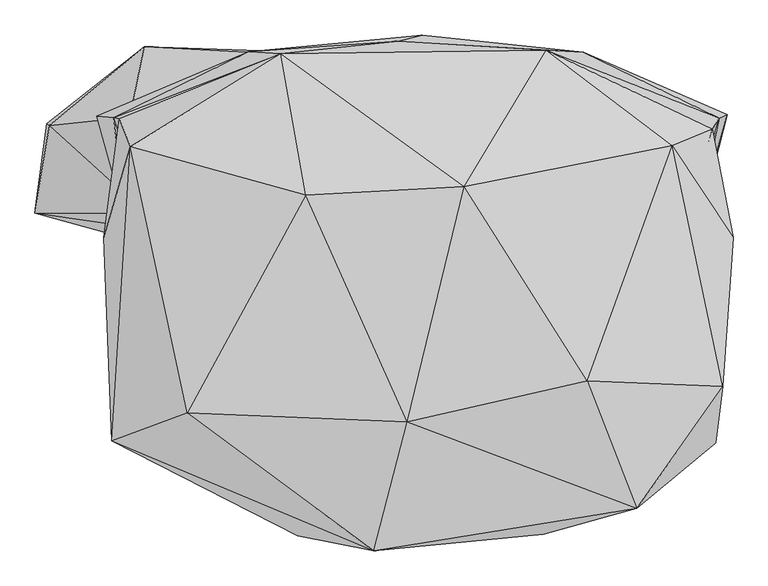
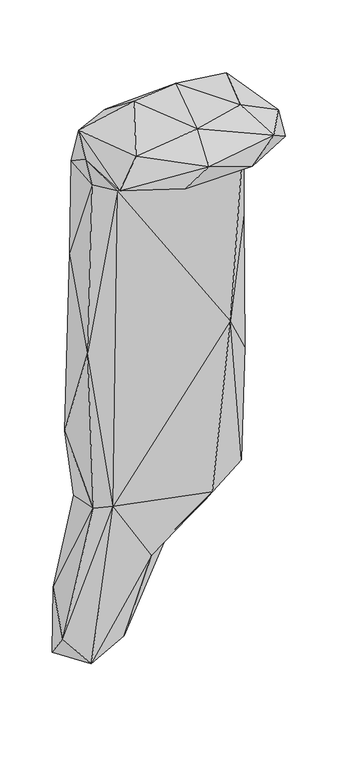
"""IFC4 building model written with IfcOpenShell, lengths in millimetres: geographic element geometry, Enscape AssetDefinition - Bower Vine 06 : Enscape AssetDefinition - Bower Vine 06."""

import ifcopenshell
import ifcopenshell.guid

model = None  # the IFC model being written
_history = None  # IfcOwnerHistory: only IFC2X3 demands one
_inside = {}  # id of a spatial element -> (the spatial element, [elements in it])
_under = {}  # id of a project, library or spatial element -> (it, [spatial elements below it])
_declared = {}  # id of a project -> (the project, [libraries it declares])
_typed = {}  # id of a type object -> (the type object, [elements of that type])
_made_of = {}  # id of a material, layer set ... -> (it, [elements and type objects made of it])


def new_model(schema):
    """Start an empty IFC model of exactly this schema.

    Asked for "IFC4X3", IfcOpenShell would pick the latest addendum, in which some entities
    have other attributes; the version numbers below select the first issue.
    IFC2X3 requires an IfcOwnerHistory on every rooted entity: one is made here for all.
    """
    global model, _history
    if schema == "IFC4X3":
        model = ifcopenshell.file(schema_version=(4, 3, 0, 0))
    else:
        model = ifcopenshell.file(schema=schema)
    _inside.clear()
    _under.clear()
    _declared.clear()
    _typed.clear()
    _made_of.clear()
    _history = None
    if model.schema == "IFC2X3":
        org = make("IfcOrganization", Name="unknown")
        user = make(
            "IfcPersonAndOrganization",
            ThePerson=make("IfcPerson", FamilyName="unknown"),
            TheOrganization=org,
        )
        app = make(
            "IfcApplication",
            ApplicationDeveloper=org,
            Version="unknown",
            ApplicationFullName="unknown",
            ApplicationIdentifier="unknown",
        )
        _history = make(
            "IfcOwnerHistory",
            OwningUser=user,
            OwningApplication=app,
            ChangeAction="ADDED",
            CreationDate=0,
        )
    return model


def make(cls, **values):
    """One entity of the class cls with the attributes given. An attribute that is None is left unset."""
    return model.create_entity(
        cls, **{name: value for name, value in values.items() if value is not None}
    )


def rooted(cls, **values):
    """An entity with a GlobalId (a new one), such as an element, a storey or a relation."""
    return make(cls, GlobalId=ifcopenshell.guid.new(), OwnerHistory=_history, **values)


def si_unit(unit_type, name, prefix=None):
    """IfcSIUnit, for example si_unit("LENGTHUNIT", "METRE", prefix="MILLI")."""
    return make("IfcSIUnit", UnitType=unit_type, Prefix=prefix, Name=name)


def assignment(units):
    """IfcUnitAssignment: the units of a project."""
    return None if units is None else make("IfcUnitAssignment", Units=units)


def point(xyz):
    """IfcCartesianPoint."""
    return None if xyz is None else make("IfcCartesianPoint", Coordinates=xyz)


def direction(xyz):
    """IfcDirection."""
    return None if xyz is None else make("IfcDirection", DirectionRatios=xyz)


def frame(location, z_axis=None, x_axis=None):
    """IfcAxis2Placement3D, a coordinate frame: its origin and axes. An axis left out is left unset."""
    return make(
        "IfcAxis2Placement3D",
        Location=point(location),
        Axis=direction(z_axis),
        RefDirection=direction(x_axis),
    )


def origin():
    """The frame at (0, 0, 0) with its axes left unset."""
    return frame((0.0, 0.0, 0.0))


def place(relative_to, where):
    """IfcLocalPlacement: puts the frame where relative to a parent placement (None: the world)."""
    return make(
        "IfcLocalPlacement", PlacementRelTo=relative_to, RelativePlacement=where
    )


def context(
    kind, dimensions, precision=None, world=None, true_north=None, identifier=None
):
    """IfcGeometricRepresentationContext, for example the 3D "Model" context."""
    return make(
        "IfcGeometricRepresentationContext",
        ContextIdentifier=identifier,
        ContextType=kind,
        CoordinateSpaceDimension=dimensions,
        Precision=precision,
        WorldCoordinateSystem=world,
        TrueNorth=true_north,
    )


def project(units=None, contexts=None):
    """IfcProject with its units and contexts."""
    return rooted(
        "IfcProject",
        Name="project",
        RepresentationContexts=contexts,
        UnitsInContext=assignment(units),
    )


def spatial(cls, under=None, at=None, **own):
    """A site, building, storey or space (cls), placed at a placement, below another one or the project."""
    s = rooted(cls, ObjectPlacement=at, **own)
    if under is not None:
        _under.setdefault(under.id(), (under, []))[1].append(s)
    return s


def faces_of(points, faces, orient=None, outer=None):
    """IfcFace entities. A face is a list of loops; a loop is a list of indices into points, from 0.

    orient and outer hold one flag for each loop. By default every Orientation is true, the
    first loop of a face is its IfcFaceOuterBound and the others are IfcFaceBound.
    """
    made = []
    for i, loops in enumerate(faces):
        bounds = []
        for j, loop in enumerate(loops):
            is_outer = j == 0 if outer is None else outer[i][j]
            bounds.append(
                make(
                    "IfcFaceOuterBound" if is_outer else "IfcFaceBound",
                    Bound=make("IfcPolyLoop", Polygon=[points[k] for k in loop]),
                    Orientation=True if orient is None else orient[i][j],
                )
            )
        made.append(make("IfcFace", Bounds=bounds))
    return made


def faceted_brep(points, faces, orient=None, outer=None, voids=None):
    """IfcFacetedBrep: a solid bounded by flat faces; with voids (closed shells), ...WithVoids."""
    shared = [point(p) for p in points]
    hull = make("IfcClosedShell", CfsFaces=faces_of(shared, faces, orient, outer))
    if voids is None:
        return make("IfcFacetedBrep", Outer=hull)
    return make(
        "IfcFacetedBrepWithVoids",
        Outer=hull,
        Voids=[
            make(cls, CfsFaces=faces_of(shared, fs, o, b)) for cls, fs, o, b in voids
        ],
    )


def shape(context_of_items, identifier, shape_type, items):
    """IfcShapeRepresentation: the items that make up one representation, for example the "Body"."""
    return make(
        "IfcShapeRepresentation",
        ContextOfItems=context_of_items,
        RepresentationIdentifier=identifier,
        RepresentationType=shape_type,
        Items=items,
    )


def source(mapping_origin, context_of_items, identifier, shape_type, items):
    """IfcRepresentationMap: a shape defined once, which mapped items show again and again."""
    return make(
        "IfcRepresentationMap",
        MappingOrigin=mapping_origin,
        MappedRepresentation=shape(context_of_items, identifier, shape_type, items),
    )


def transform(
    local_origin,
    x_axis=None,
    y_axis=None,
    z_axis=None,
    scale=None,
    scale2=None,
    scale3=None,
    uniform=True,
):
    """IfcCartesianTransformationOperator3D, or its non-uniform kind. x_axis, y_axis, z_axis: its Axis1, 2, 3."""
    if uniform:
        return make(
            "IfcCartesianTransformationOperator3D",
            Axis1=direction(x_axis),
            Axis2=direction(y_axis),
            LocalOrigin=point(local_origin),
            Scale=scale,
            Axis3=direction(z_axis),
        )
    return make(
        "IfcCartesianTransformationOperator3DnonUniform",
        Axis1=direction(x_axis),
        Axis2=direction(y_axis),
        LocalOrigin=point(local_origin),
        Scale=scale,
        Axis3=direction(z_axis),
        Scale2=scale2,
        Scale3=scale3,
    )


def mapped(mapping_source, mapping_target):
    """IfcMappedItem: shows the shape of a source again, moved by a transform."""
    return make(
        "IfcMappedItem", MappingSource=mapping_source, MappingTarget=mapping_target
    )


def made_of(thing, what):
    """Note that an element or type object is made of a material, layer set ...; save() writes the relation."""
    if what is not None:
        _made_of.setdefault(what.id(), (what, []))[1].append(thing)
    return thing


def element(
    cls,
    number,
    at=None,
    inside=None,
    cuts=None,
    type_object=None,
    material=None,
    context=None,
    identifier="Body",
    shape_type=None,
    held_by="IfcProductDefinitionShape",
    body=None,
    shapes=None,
    **own,
):
    """One element of the class cls, such as IfcWall. Its Tag is "e" and its number.

    at: its placement. inside: the storey or other place that contains it. cuts: it is an
    opening in that element (IfcRelVoidsElement). A single representation is given by context,
    identifier, shape_type and body (its items); several are given by shapes. held_by: the class
    of the entity that holds the representations. save() writes the other relations.
    """
    e = rooted(cls, Tag="e%d" % number, ObjectPlacement=at, **own)
    if body is not None:
        shapes = [shape(context, identifier, shape_type, body)]
    if shapes is not None:
        e.Representation = make(held_by, Representations=shapes)
    if inside is not None:
        _inside.setdefault(inside.id(), (inside, []))[1].append(e)
    if cuts is not None:
        rooted(
            "IfcRelVoidsElement", RelatingBuildingElement=cuts, RelatedOpeningElement=e
        )
    if type_object is not None:
        _typed.setdefault(type_object.id(), (type_object, []))[1].append(e)
    return made_of(e, material)


def aggregate(whole, parts):
    """IfcRelAggregates: a whole, such as a stair, and the parts it consists of."""
    return rooted("IfcRelAggregates", RelatingObject=whole, RelatedObjects=parts)


def save(model, path):
    """Write the relations noted so far, then the file.

    IfcRelAggregates (storeys below a building ...), IfcRelContainedInSpatialStructure (elements
    in a storey), IfcRelDefinesByType, IfcRelAssociatesMaterial and IfcRelDeclares: one each for
    every whole, place, type object, material and project.
    """
    for whole, parts in _under.values():
        aggregate(whole, parts)
    for where, things in _inside.values():
        rooted(
            "IfcRelContainedInSpatialStructure",
            RelatedElements=things,
            RelatingStructure=where,
        )
    for kind, things in _typed.values():
        rooted("IfcRelDefinesByType", RelatedObjects=things, RelatingType=kind)
    for what, things in _made_of.values():
        rooted("IfcRelAssociatesMaterial", RelatedObjects=things, RelatingMaterial=what)
    for by, libraries in _declared.values():
        rooted("IfcRelDeclares", RelatingContext=by, RelatedDefinitions=libraries)
    model.write(path)


def geographic_element_d181bed6(model_context):
    return source(origin(), model_context, "Body", "Brep", [
        faceted_brep([(-505.6430101, 0.59, 1.274), (514.2980218, 0.59, -182.6730072), (602.5720239, 0.59, 1.274), (267.888993, -522.9920149, 1.274), (571.9670057, -361.1040115, 1.274), (584.7939849, -262.0770037, 116.7500019), (495.6550002, 162.4139994, 141.5629983), (565.9369826, 191.0630018, 22.2379994), (432.7700138, -476.76301, 124.8430014), (-164.0489995, -525.3049731, 1.274), (-29.871, -551.2409806, 118.0810034), (29.3000005, -324.3489861, 218.1230038), (345.5759883, -252.4499893, 228.6970019), (128.9079934, 90.1470035, 243.9280003), (273.4430134, 330.7279944, 28.8880002), (577.8220296, 211.0199928, -449.4250119), (-193.9660013, 323.9090145, 37.8349982), (338.8009965, 327.5080025, -1413.7649536), (13.3520002, 346.6140032, -535.5370045), (-150.1780003, 74.9799982, 226.6090065), (-458.6029947, 160.7760042, 84.8359987), (-358.2859933, -309.0730011, 159.5309973), (-491.0700023, -357.8479886, 1.274), (-477.9469967, 210.1999968, -146.1230069), (-298.1849909, 0.59, -284.7270072), (-435.2410138, 49.6679991, -226.5679985), (-487.9310131, 211.4769965, -768.8080072), (-469.6660042, 40.0880016, -1350.2550125), (429.3949902, 0.59, -1423.9569902), (-327.9620111, 0.59, -2423.8801003), (543.851018, 48.0929986, -771.9029784), (312.7340078, 0.59, -2549.3159294), (547.7039814, 43.2629995, -1667.5450802), (533.2480073, 57.2960004, -2440.9899712), (592.3900008, 217.5049931, -1589.5600319), (554.0980101, 204.4209987, -2466.5629864), (327.7649879, 313.3220077, -2589.3130302), (384.6209943, 207.9659998, -2755.3911209), (55.6369983, 357.4309945, -1664.1579866), (-219.8999971, 325.6280124, -2503.013134), (-178.1920046, 328.2999992, -2718.9199924), (40.1519984, 213.7479931, -2835.3891373), (40.1629992, 51.2470007, -2802.4470806), (-434.1439903, 336.9460106, -3005.8319569), (-261.4359856, 312.846005, -3198.7230778), (-232.5710058, 204.2929977, -3378.4909248), (-256.3759983, 0.59, -3327.8200626), (-80.0639987, 0.59, -2840.8410549), (-470.5860019, 0.59, -3443.9511299), (-451.0129988, 220.5149978, -3527.0519257), (-606.0450077, 202.0889968, -3439.6979809), (-626.6980171, 44.4790013, -3248.0111122), (-431.1119914, 44.0169983, -2424.423933), (-601.4130116, 198.1340051, -2997.7500439), (-459.4370127, 213.0569965, -2431.8459034), (-517.7890062, 214.4110054, -1973.1429815), (-250.2110004, 327.9010057, -1375.2590418)], [[[0, 1, 2]], [[3, 2, 4]], [[3, 0, 2]], [[4, 2, 5]], [[2, 6, 5]], [[7, 6, 2]], [[7, 2, 1]], [[8, 4, 5]], [[3, 4, 8]], [[0, 3, 9]], [[10, 3, 8]], [[9, 3, 10]], [[11, 8, 12]], [[5, 12, 8]], [[11, 10, 8]], [[6, 12, 5]], [[13, 12, 6]], [[13, 11, 12]], [[7, 14, 6]], [[13, 6, 14]], [[7, 1, 15]], [[14, 7, 15]], [[14, 16, 13]], [[17, 14, 15]], [[18, 16, 14]], [[18, 14, 17]], [[19, 11, 13]], [[16, 19, 13]], [[19, 20, 21]], [[16, 20, 19]], [[19, 21, 11]], [[22, 10, 21]], [[11, 21, 10]], [[21, 20, 22]], [[20, 0, 22]], [[20, 23, 0]], [[23, 20, 16]], [[9, 22, 0]], [[9, 10, 22]], [[24, 1, 0]], [[24, 0, 25]], [[25, 0, 23]], [[26, 25, 23]], [[26, 23, 16]], [[27, 24, 25]], [[27, 25, 26]], [[24, 28, 1]], [[24, 29, 28]], [[27, 29, 24]], [[28, 30, 1]], [[1, 30, 15]], [[29, 31, 28]], [[32, 30, 28]], [[33, 32, 28]], [[33, 28, 31]], [[32, 34, 30]], [[34, 15, 30]], [[17, 15, 34]], [[35, 17, 34]], [[35, 34, 32]], [[33, 35, 32]], [[35, 33, 31]], [[36, 17, 35]], [[36, 35, 37]], [[37, 35, 31]], [[38, 18, 17]], [[38, 17, 36]], [[36, 39, 38]], [[40, 39, 36]], [[40, 36, 37]], [[41, 40, 37]], [[42, 37, 31]], [[41, 37, 42]], [[40, 43, 39]], [[44, 40, 41]], [[43, 40, 44]], [[44, 41, 45]], [[45, 41, 42]], [[46, 45, 42]], [[42, 31, 47]], [[46, 42, 47]], [[29, 47, 31]], [[29, 48, 47]], [[48, 46, 47]], [[48, 45, 46]], [[45, 48, 49]], [[49, 44, 45]], [[49, 43, 44]], [[43, 49, 50]], [[49, 48, 50]], [[48, 51, 50]], [[48, 29, 51]], [[27, 52, 29]], [[29, 52, 51]], [[50, 51, 53]], [[51, 52, 53]], [[43, 50, 53]], [[43, 53, 54]], [[53, 52, 54]], [[54, 52, 55]], [[55, 52, 27]], [[26, 55, 27]], [[54, 55, 39]], [[39, 55, 56]], [[55, 26, 56]], [[43, 54, 39]], [[39, 56, 38]], [[56, 26, 16]], [[56, 16, 18]], [[56, 18, 38]]]),
    ])


if __name__ == "__main__":
    model = new_model("IFC4")
    model_context = context("Model", 3, world=origin())
    ifc_project = project(units=[si_unit("LENGTHUNIT", "METRE", prefix="MILLI")], contexts=[model_context])
    site = spatial("IfcSite", under=ifc_project)
    building = spatial("IfcBuilding", under=site)
    placement = place(None, origin())
    geographic_element_shape = geographic_element_d181bed6(model_context)
    element("IfcGeographicElement", 1, ObjectType="Enscape AssetDefinition - Bower Vine 06 : Enscape AssetDefinition - Bower Vine 06", at=placement, inside=building, context=model_context, shape_type="MappedRepresentation", body=[
        mapped(geographic_element_shape, transform((0.0, 0.0, 0.0), x_axis=(1.0, 0.0, 0.0), y_axis=(0.0, 1.0, 0.0), z_axis=(0.0, 0.0, 1.0))),
    ])
    save(model, "model.ifc")
